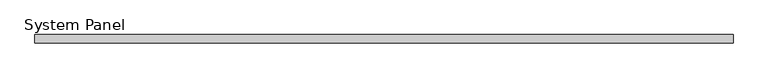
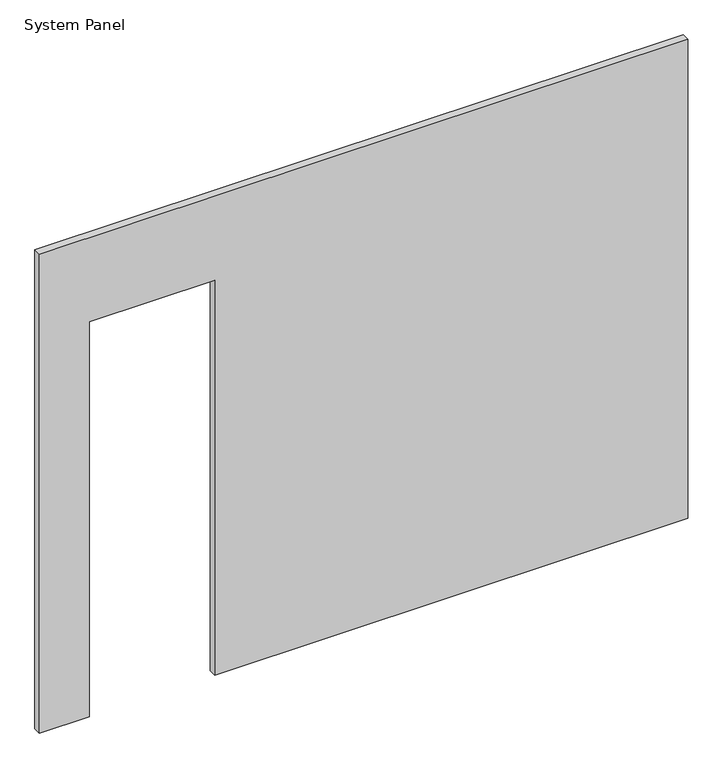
"""IFC4 building model written with IfcOpenShell, lengths in millimetres: plate geometry."""

from ifc_helpers import new_model, si_unit, frame, origin, place, context, project, spatial, polyline, outline, extrude, source, transform, mapped, element, save


def system_panel_2ae99ec5(model_context):
    return source(origin(), model_context, "Body", "SweptSolid", [
        extrude(outline(polyline([(0.0, -1577.18125), (0.0, -1334.29375), (2032.0, -1334.29375), (2032.0, -724.69375), (0.0, -724.69375), (0.0, 1577.18125), (2463.8, 1577.18125), (2463.8, -1577.18125), (0.0, -1577.18125)])), frame((0.0, -19.05, 0.0), z_axis=(0.0, 1.0, 0.0), x_axis=(0.0, 0.0, 1.0)), (0.0, 0.0, 1.0), 38.1),
    ])


if __name__ == "__main__":
    model = new_model("IFC4")
    model_context = context("Model", 3, world=origin())
    ifc_project = project(units=[si_unit("LENGTHUNIT", "METRE", prefix="MILLI")], contexts=[model_context])
    site = spatial("IfcSite", under=ifc_project)
    building = spatial("IfcBuilding", under=site)
    placement = place(None, origin())
    system_panel_shape = system_panel_2ae99ec5(model_context)
    element("IfcPlate", 1, ObjectType="System Panel : 1/2\" Plywood & 1\" Rigid Ins.", at=placement, inside=building, context=model_context, shape_type="MappedRepresentation", body=[
        mapped(system_panel_shape, transform((0.0, 0.0, 0.0), x_axis=(1.0, 0.0, 0.0), y_axis=(0.0, 1.0, 0.0), z_axis=(0.0, 0.0, 1.0))),
    ])
    save(model, "model.ifc")
